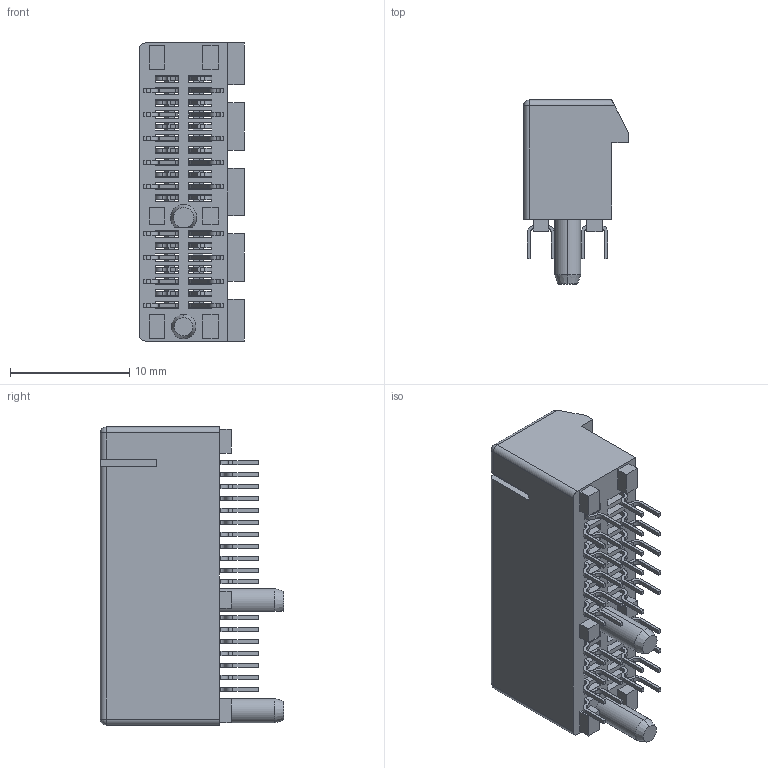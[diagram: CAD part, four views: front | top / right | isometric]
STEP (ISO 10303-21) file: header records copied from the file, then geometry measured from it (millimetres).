
FILE_DESCRIPTION (( 'STEP AP203' ), '1' );
FILE_NAME ('TE PCIe Express x1 (2.3mm Pins).STEP', '2015-01-12T00:38:54', ( '' ), ( '' ), 'SwSTEP 2.0', 'SolidWorks 2013', '' );
FILE_SCHEMA (( 'CONFIG_CONTROL_DESIGN' ));
Length unit declared in the file: millimetre
Products named in the file (4): PCIe Body_PCIe x1; Pins_Internal Pin (Short); Pins_External Pin (Short); TE PCIe Express x1 (2.3mm Pins)
Assembly tree (37 placements, depth 2):
  TE PCIe Express x1 (2.3mm Pins)
    PCIe Body_PCIe x1
    Pins_Internal Pin (Short)  x18
    Pins_External Pin (Short)  x18
Bounding box: 8.8 x 15.4 x 25 mm (x, y, z)
Volume: 1394.5 mm3; surface area: 3441.1 mm2
Topology: 37 solids, 37 shells, 1360 faces, 4019 edges, 2669 vertices
Faces by surface type: plane 912, cylinder 442, cone 4, sphere 2
Entity records: 18623 total; most frequent: CARTESIAN_POINT 3138, ORIENTED_EDGE 3138, DIRECTION 2667, EDGE_CURVE 1569, LINE 1495, VECTOR 1495, VERTEX_POINT 1037, AXIS2_PLACEMENT_3D 586
